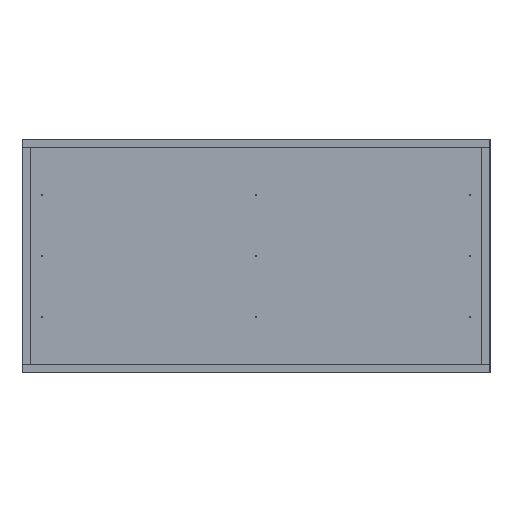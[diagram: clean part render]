
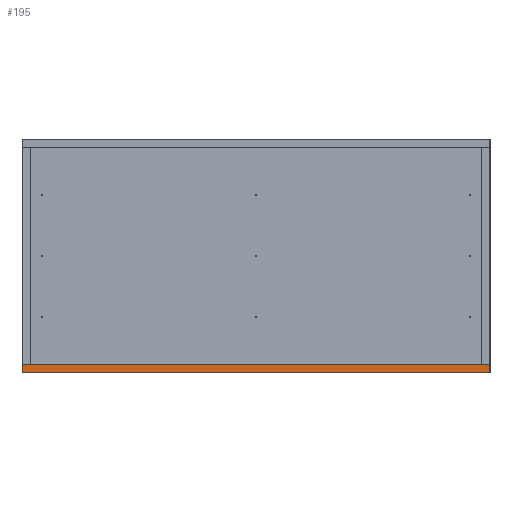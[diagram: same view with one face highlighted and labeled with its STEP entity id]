
A CAD part, left-side view. The second image highlights one B-rep face of the part: STEP entity #195.
In plain terms, the highlighted planar face has unit normal (-1, 0, 0).
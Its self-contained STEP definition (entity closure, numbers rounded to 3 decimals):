
#195 = ADVANCED_FACE('',(#196),#210,.F.);
#196 = FACE_BOUND('',#197,.F.);
#197 = EDGE_LOOP('',(#198,#233,#261,#289));
#198 = ORIENTED_EDGE('',*,*,#199,.F.);
#199 = EDGE_CURVE('',#200,#202,#204,.T.);
#200 = VERTEX_POINT('',#201);
#201 = CARTESIAN_POINT('',(0.,0.,0.));
#202 = VERTEX_POINT('',#203);
#203 = CARTESIAN_POINT('',(0.,0.,18.));
#204 = SURFACE_CURVE('',#205,(#209,#221),.PCURVE_S1.);
#205 = LINE('',#206,#207);
#206 = CARTESIAN_POINT('',(0.,0.,0.));
#207 = VECTOR('',#208,1.);
#208 = DIRECTION('',(0.,0.,1.));
#209 = PCURVE('',#210,#215);
#210 = PLANE('',#211);
#211 = AXIS2_PLACEMENT_3D('',#212,#213,#214);
#212 = CARTESIAN_POINT('',(0.,0.,0.));
#213 = DIRECTION('',(1.,0.,-0.));
#214 = DIRECTION('',(0.,0.,1.));
#215 = DEFINITIONAL_REPRESENTATION('',(#216),#220);
#216 = LINE('',#217,#218);
#217 = CARTESIAN_POINT('',(0.,0.));
#218 = VECTOR('',#219,1.);
#219 = DIRECTION('',(1.,0.));
#220 = ( GEOMETRIC_REPRESENTATION_CONTEXT(2) 
PARAMETRIC_REPRESENTATION_CONTEXT() REPRESENTATION_CONTEXT('2D SPACE',''
  ) );
#221 = PCURVE('',#222,#227);
#222 = PLANE('',#223);
#223 = AXIS2_PLACEMENT_3D('',#224,#225,#226);
#224 = CARTESIAN_POINT('',(0.,0.,0.));
#225 = DIRECTION('',(-0.,1.,0.));
#226 = DIRECTION('',(0.,0.,1.));
#227 = DEFINITIONAL_REPRESENTATION('',(#228),#232);
#228 = LINE('',#229,#230);
#229 = CARTESIAN_POINT('',(0.,0.));
#230 = VECTOR('',#231,1.);
#231 = DIRECTION('',(1.,0.));
#232 = ( GEOMETRIC_REPRESENTATION_CONTEXT(2) 
PARAMETRIC_REPRESENTATION_CONTEXT() REPRESENTATION_CONTEXT('2D SPACE',''
  ) );
#233 = ORIENTED_EDGE('',*,*,#234,.T.);
#234 = EDGE_CURVE('',#200,#235,#237,.T.);
#235 = VERTEX_POINT('',#236);
#236 = CARTESIAN_POINT('',(0.,1000.,0.));
#237 = SURFACE_CURVE('',#238,(#242,#249),.PCURVE_S1.);
#238 = LINE('',#239,#240);
#239 = CARTESIAN_POINT('',(0.,0.,0.));
#240 = VECTOR('',#241,1.);
#241 = DIRECTION('',(-0.,1.,0.));
#242 = PCURVE('',#210,#243);
#243 = DEFINITIONAL_REPRESENTATION('',(#244),#248);
#244 = LINE('',#245,#246);
#245 = CARTESIAN_POINT('',(0.,0.));
#246 = VECTOR('',#247,1.);
#247 = DIRECTION('',(0.,-1.));
#248 = ( GEOMETRIC_REPRESENTATION_CONTEXT(2) 
PARAMETRIC_REPRESENTATION_CONTEXT() REPRESENTATION_CONTEXT('2D SPACE',''
  ) );
#249 = PCURVE('',#250,#255);
#250 = PLANE('',#251);
#251 = AXIS2_PLACEMENT_3D('',#252,#253,#254);
#252 = CARTESIAN_POINT('',(0.,0.,0.));
#253 = DIRECTION('',(0.,0.,1.));
#254 = DIRECTION('',(1.,0.,-0.));
#255 = DEFINITIONAL_REPRESENTATION('',(#256),#260);
#256 = LINE('',#257,#258);
#257 = CARTESIAN_POINT('',(0.,0.));
#258 = VECTOR('',#259,1.);
#259 = DIRECTION('',(0.,1.));
#260 = ( GEOMETRIC_REPRESENTATION_CONTEXT(2) 
PARAMETRIC_REPRESENTATION_CONTEXT() REPRESENTATION_CONTEXT('2D SPACE',''
  ) );
#261 = ORIENTED_EDGE('',*,*,#262,.T.);
#262 = EDGE_CURVE('',#235,#263,#265,.T.);
#263 = VERTEX_POINT('',#264);
#264 = CARTESIAN_POINT('',(0.,1000.,18.));
#265 = SURFACE_CURVE('',#266,(#270,#277),.PCURVE_S1.);
#266 = LINE('',#267,#268);
#267 = CARTESIAN_POINT('',(0.,1000.,0.));
#268 = VECTOR('',#269,1.);
#269 = DIRECTION('',(0.,0.,1.));
#270 = PCURVE('',#210,#271);
#271 = DEFINITIONAL_REPRESENTATION('',(#272),#276);
#272 = LINE('',#273,#274);
#273 = CARTESIAN_POINT('',(0.,-1000.));
#274 = VECTOR('',#275,1.);
#275 = DIRECTION('',(1.,0.));
#276 = ( GEOMETRIC_REPRESENTATION_CONTEXT(2) 
PARAMETRIC_REPRESENTATION_CONTEXT() REPRESENTATION_CONTEXT('2D SPACE',''
  ) );
#277 = PCURVE('',#278,#283);
#278 = PLANE('',#279);
#279 = AXIS2_PLACEMENT_3D('',#280,#281,#282);
#280 = CARTESIAN_POINT('',(0.,1000.,0.));
#281 = DIRECTION('',(-0.,1.,0.));
#282 = DIRECTION('',(0.,0.,1.));
#283 = DEFINITIONAL_REPRESENTATION('',(#284),#288);
#284 = LINE('',#285,#286);
#285 = CARTESIAN_POINT('',(0.,0.));
#286 = VECTOR('',#287,1.);
#287 = DIRECTION('',(1.,0.));
#288 = ( GEOMETRIC_REPRESENTATION_CONTEXT(2) 
PARAMETRIC_REPRESENTATION_CONTEXT() REPRESENTATION_CONTEXT('2D SPACE',''
  ) );
#289 = ORIENTED_EDGE('',*,*,#290,.F.);
#290 = EDGE_CURVE('',#202,#263,#291,.T.);
#291 = SURFACE_CURVE('',#292,(#296,#303),.PCURVE_S1.);
#292 = LINE('',#293,#294);
#293 = CARTESIAN_POINT('',(0.,0.,18.));
#294 = VECTOR('',#295,1.);
#295 = DIRECTION('',(-0.,1.,0.));
#296 = PCURVE('',#210,#297);
#297 = DEFINITIONAL_REPRESENTATION('',(#298),#302);
#298 = LINE('',#299,#300);
#299 = CARTESIAN_POINT('',(18.,0.));
#300 = VECTOR('',#301,1.);
#301 = DIRECTION('',(0.,-1.));
#302 = ( GEOMETRIC_REPRESENTATION_CONTEXT(2) 
PARAMETRIC_REPRESENTATION_CONTEXT() REPRESENTATION_CONTEXT('2D SPACE',''
  ) );
#303 = PCURVE('',#304,#309);
#304 = PLANE('',#305);
#305 = AXIS2_PLACEMENT_3D('',#306,#307,#308);
#306 = CARTESIAN_POINT('',(0.,0.,18.));
#307 = DIRECTION('',(0.,0.,1.));
#308 = DIRECTION('',(1.,0.,-0.));
#309 = DEFINITIONAL_REPRESENTATION('',(#310),#314);
#310 = LINE('',#311,#312);
#311 = CARTESIAN_POINT('',(0.,0.));
#312 = VECTOR('',#313,1.);
#313 = DIRECTION('',(0.,1.));
#314 = ( GEOMETRIC_REPRESENTATION_CONTEXT(2) 
PARAMETRIC_REPRESENTATION_CONTEXT() REPRESENTATION_CONTEXT('2D SPACE',''
  ) );
